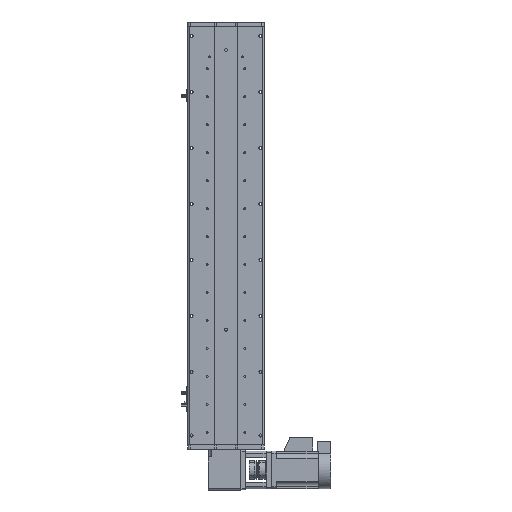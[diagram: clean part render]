
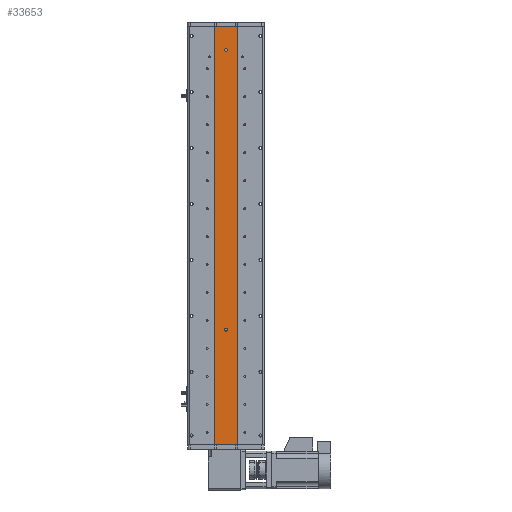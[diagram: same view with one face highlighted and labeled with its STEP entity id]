
A CAD part, front view. The second image highlights one B-rep face of the part: STEP entity #33653.
In plain terms, the highlighted planar face has unit normal (0, -1, 0).
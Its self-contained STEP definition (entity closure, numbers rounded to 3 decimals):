
#137 = CARTESIAN_POINT ( 'NONE',  ( 25., 1., -448.5 ) ) ;
#642 = CARTESIAN_POINT ( 'NONE',  ( 0., 1., -198.5 ) ) ;
#2261 = DIRECTION ( 'NONE',  ( 0., 0., -1. ) ) ;
#2839 = CARTESIAN_POINT ( 'NONE',  ( 0., 1., 401.5 ) ) ;
#3070 = CARTESIAN_POINT ( 'NONE',  ( 25., 1., 448.5 ) ) ;
#3080 = DIRECTION ( 'NONE',  ( 0., 0., -1. ) ) ;
#3597 = VECTOR ( 'NONE', #3080, 1000. ) ;
#3787 = DIRECTION ( 'NONE',  ( 1., 0., 0. ) ) ;
#5117 = CARTESIAN_POINT ( 'NONE',  ( 0., 1., -201.5 ) ) ;
#6712 = EDGE_CURVE ( 'NONE', #45690, #34307, #36296, .T. ) ;
#6772 = VECTOR ( 'NONE', #6908, 1000. ) ;
#6897 = CARTESIAN_POINT ( 'NONE',  ( 0., 1., -204.5 ) ) ;
#6908 = DIRECTION ( 'NONE',  ( 1., 0., 0. ) ) ;
#8235 = CIRCLE ( 'NONE', #36331, 3. ) ;
#8803 = DIRECTION ( 'NONE',  ( 0., 0., -1. ) ) ;
#9731 = CARTESIAN_POINT ( 'NONE',  ( 25., 1., 448.5 ) ) ;
#11340 = AXIS2_PLACEMENT_3D ( 'NONE', #5117, #30653, #8803 ) ;
#11916 = CARTESIAN_POINT ( 'NONE',  ( 25., 1., 448.5 ) ) ;
#11947 = ORIENTED_EDGE ( 'NONE', *, *, #33042, .T. ) ;
#13038 = AXIS2_PLACEMENT_3D ( 'NONE', #33046, #32830, #32781 ) ;
#13392 = AXIS2_PLACEMENT_3D ( 'NONE', #45984, #24207, #2261 ) ;
#13452 = DIRECTION ( 'NONE',  ( 0., 0., -1. ) ) ;
#13866 = EDGE_LOOP ( 'NONE', ( #32561, #21758 ) ) ;
#15971 = CARTESIAN_POINT ( 'NONE',  ( -25., 1., -448.5 ) ) ;
#16020 = DIRECTION ( 'NONE',  ( 0., -1., 0. ) ) ;
#16555 = LINE ( 'NONE', #3070, #6772 ) ;
#16734 = LINE ( 'NONE', #137, #45752 ) ;
#18495 = DIRECTION ( 'NONE',  ( 0., 1., 0. ) ) ;
#18777 = CIRCLE ( 'NONE', #13392, 3. ) ;
#20993 = VERTEX_POINT ( 'NONE', #33207 ) ;
#21758 = ORIENTED_EDGE ( 'NONE', *, *, #37200, .F. ) ;
#22248 = ORIENTED_EDGE ( 'NONE', *, *, #47242, .F. ) ;
#22290 = ORIENTED_EDGE ( 'NONE', *, *, #25499, .F. ) ;
#22813 = EDGE_CURVE ( 'NONE', #45191, #27429, #41263, .T. ) ;
#24207 = DIRECTION ( 'NONE',  ( 0., -1., 0. ) ) ;
#24526 = CARTESIAN_POINT ( 'NONE',  ( 25., 1., -448.5 ) ) ;
#24608 = ORIENTED_EDGE ( 'NONE', *, *, #6712, .F. ) ;
#25499 = EDGE_CURVE ( 'NONE', #34307, #45690, #41179, .T. ) ;
#27429 = VERTEX_POINT ( 'NONE', #15971 ) ;
#28022 = FACE_OUTER_BOUND ( 'NONE', #43799, .T. ) ;
#28483 = ORIENTED_EDGE ( 'NONE', *, *, #22813, .T. ) ;
#29074 = ORIENTED_EDGE ( 'NONE', *, *, #32798, .F. ) ;
#29281 = PLANE ( 'NONE',  #42618 ) ;
#30653 = DIRECTION ( 'NONE',  ( 0., -1., 0. ) ) ;
#32561 = ORIENTED_EDGE ( 'NONE', *, *, #35380, .F. ) ;
#32781 = DIRECTION ( 'NONE',  ( 0., 0., -1. ) ) ;
#32798 = EDGE_CURVE ( 'NONE', #41480, #39892, #37806, .T. ) ;
#32830 = DIRECTION ( 'NONE',  ( 0., -1., 0. ) ) ;
#33042 = EDGE_CURVE ( 'NONE', #27429, #39892, #16734, .T. ) ;
#33046 = CARTESIAN_POINT ( 'NONE',  ( 0., 1., -201.5 ) ) ;
#33144 = FACE_BOUND ( 'NONE', #13866, .T. ) ;
#33207 = CARTESIAN_POINT ( 'NONE',  ( 0., 1., 395.5 ) ) ;
#33653 = ADVANCED_FACE ( 'NONE', ( #33144, #41695, #28022 ), #29281, .F. ) ;
#34307 = VERTEX_POINT ( 'NONE', #642 ) ;
#34618 = VERTEX_POINT ( 'NONE', #2839 ) ;
#35380 = EDGE_CURVE ( 'NONE', #20993, #34618, #18777, .T. ) ;
#35815 = CARTESIAN_POINT ( 'NONE',  ( -25., 1., 448.5 ) ) ;
#36296 = CIRCLE ( 'NONE', #13038, 3. ) ;
#36331 = AXIS2_PLACEMENT_3D ( 'NONE', #37828, #16020, #41489 ) ;
#36663 = VECTOR ( 'NONE', #13452, 1000. ) ;
#37200 = EDGE_CURVE ( 'NONE', #34618, #20993, #8235, .T. ) ;
#37806 = LINE ( 'NONE', #9731, #36663 ) ;
#37828 = CARTESIAN_POINT ( 'NONE',  ( 0., 1., 398.5 ) ) ;
#38622 = CARTESIAN_POINT ( 'NONE',  ( -25., 1., 448.5 ) ) ;
#39892 = VERTEX_POINT ( 'NONE', #24526 ) ;
#40267 = CARTESIAN_POINT ( 'NONE',  ( 25., 1., 448.5 ) ) ;
#41179 = CIRCLE ( 'NONE', #11340, 3. ) ;
#41263 = LINE ( 'NONE', #35815, #3597 ) ;
#41480 = VERTEX_POINT ( 'NONE', #11916 ) ;
#41489 = DIRECTION ( 'NONE',  ( 0., 0., -1. ) ) ;
#41695 = FACE_BOUND ( 'NONE', #43059, .T. ) ;
#42618 = AXIS2_PLACEMENT_3D ( 'NONE', #40267, #18495, #43923 ) ;
#43059 = EDGE_LOOP ( 'NONE', ( #24608, #22290 ) ) ;
#43799 = EDGE_LOOP ( 'NONE', ( #11947, #29074, #22248, #28483 ) ) ;
#43923 = DIRECTION ( 'NONE',  ( 0., 0., 1. ) ) ;
#45191 = VERTEX_POINT ( 'NONE', #38622 ) ;
#45690 = VERTEX_POINT ( 'NONE', #6897 ) ;
#45752 = VECTOR ( 'NONE', #3787, 1000. ) ;
#45984 = CARTESIAN_POINT ( 'NONE',  ( 0., 1., 398.5 ) ) ;
#47242 = EDGE_CURVE ( 'NONE', #45191, #41480, #16555, .T. ) ;
